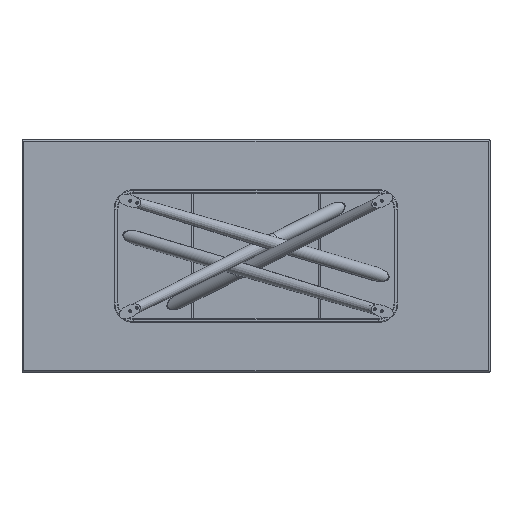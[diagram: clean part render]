
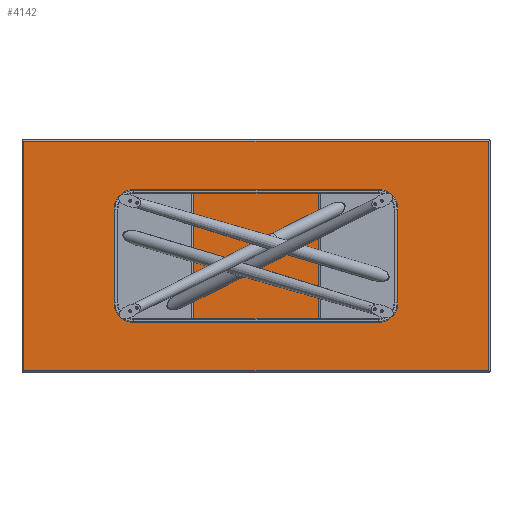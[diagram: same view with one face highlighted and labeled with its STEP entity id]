
A CAD part, front view. The second image highlights one B-rep face of the part: STEP entity #4142.
In plain terms, the highlighted planar face has unit normal (0, -1, 0).
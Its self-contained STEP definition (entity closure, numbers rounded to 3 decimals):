
#279 = PLANE ( 'NONE',  #7514 ) ;
#430 = CARTESIAN_POINT ( 'NONE',  ( 0., 0., 0. ) ) ;
#566 = CARTESIAN_POINT ( 'NONE',  ( 1187., 0., -587. ) ) ;
#652 = DIRECTION ( 'NONE',  ( 1., 0., 0. ) ) ;
#955 = VERTEX_POINT ( 'NONE', #1589 ) ;
#1246 = DIRECTION ( 'NONE',  ( 0., 0., -1. ) ) ;
#1258 = LINE ( 'NONE', #5315, #10232 ) ;
#1534 = CARTESIAN_POINT ( 'NONE',  ( 0., 0., -587. ) ) ;
#1589 = CARTESIAN_POINT ( 'NONE',  ( 1187., 0., 587. ) ) ;
#1895 = CARTESIAN_POINT ( 'NONE',  ( 0., 0., 587. ) ) ;
#2145 = CARTESIAN_POINT ( 'NONE',  ( -1187., 0., 587. ) ) ;
#2227 = CARTESIAN_POINT ( 'NONE',  ( -1187., 0., 0. ) ) ;
#2843 = EDGE_CURVE ( 'NONE', #7631, #955, #1258, .T. ) ;
#3057 = LINE ( 'NONE', #1534, #3610 ) ;
#3610 = VECTOR ( 'NONE', #652, 1000. ) ;
#3639 = ORIENTED_EDGE ( 'NONE', *, *, #9855, .T. ) ;
#4142 = ADVANCED_FACE ( 'NONE', ( #7424 ), #279, .F. ) ;
#4580 = DIRECTION ( 'NONE',  ( 0., 0., 1. ) ) ;
#4927 = VERTEX_POINT ( 'NONE', #9296 ) ;
#5293 = VERTEX_POINT ( 'NONE', #2145 ) ;
#5315 = CARTESIAN_POINT ( 'NONE',  ( 1187., 0., 0. ) ) ;
#5552 = ORIENTED_EDGE ( 'NONE', *, *, #8250, .T. ) ;
#5951 = LINE ( 'NONE', #1895, #7632 ) ;
#6739 = DIRECTION ( 'NONE',  ( 0., 1., 0. ) ) ;
#6794 = DIRECTION ( 'NONE',  ( -1., 0., 0. ) ) ;
#7072 = ORIENTED_EDGE ( 'NONE', *, *, #2843, .T. ) ;
#7424 = FACE_OUTER_BOUND ( 'NONE', #9264, .T. ) ;
#7514 = AXIS2_PLACEMENT_3D ( 'NONE', #430, #6739, #7630 ) ;
#7630 = DIRECTION ( 'NONE',  ( 0., 0., 1. ) ) ;
#7631 = VERTEX_POINT ( 'NONE', #566 ) ;
#7632 = VECTOR ( 'NONE', #6794, 1000. ) ;
#8250 = EDGE_CURVE ( 'NONE', #4927, #7631, #3057, .T. ) ;
#8358 = ORIENTED_EDGE ( 'NONE', *, *, #8724, .T. ) ;
#8539 = LINE ( 'NONE', #2227, #9810 ) ;
#8724 = EDGE_CURVE ( 'NONE', #955, #5293, #5951, .T. ) ;
#9264 = EDGE_LOOP ( 'NONE', ( #7072, #8358, #3639, #5552 ) ) ;
#9296 = CARTESIAN_POINT ( 'NONE',  ( -1187., 0., -587. ) ) ;
#9810 = VECTOR ( 'NONE', #1246, 1000. ) ;
#9855 = EDGE_CURVE ( 'NONE', #5293, #4927, #8539, .T. ) ;
#10232 = VECTOR ( 'NONE', #4580, 1000. ) ;
